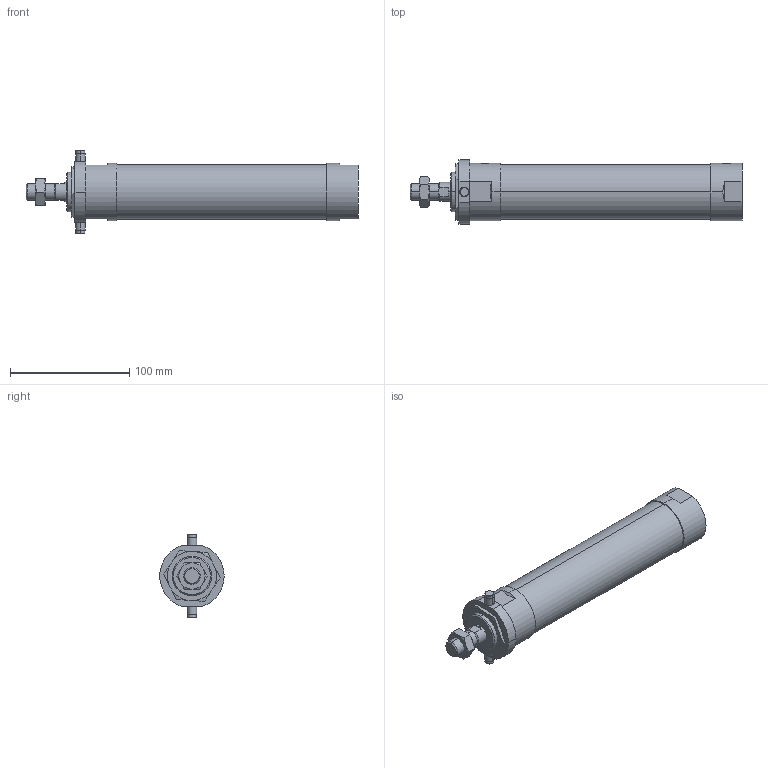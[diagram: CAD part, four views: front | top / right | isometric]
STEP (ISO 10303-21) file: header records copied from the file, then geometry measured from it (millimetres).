
FILE_DESCRIPTION (( 'STEP AP203' ), '1' );
FILE_NAME ('JGND2-40-125-T.STEP', '2016-08-04T03:12:15', ( '' ), ( '' ), 'SwSTEP 2.0', 'SolidWorks 2014', '' );
FILE_SCHEMA (( 'CONFIG_CONTROL_DESIGN' ));
Length unit declared in the file: millimetre
Products named in the file (5): J#2-40-125(P); J#2-40-T; JGND2-40-125-T
Assembly tree (4 placements, depth 2):
  JGND2-40-125-T
    J#2-40-125(P)
    (unnamed)
    (unnamed)
    J#2-40-T
Bounding box: 278 x 53.91 x 70 mm (x, y, z)
Volume: 419871.5 mm3; surface area: 50738.9 mm2
Topology: 4 solids, 4 shells, 116 faces, 269 edges, 165 vertices
Faces by surface type: plane 38, cylinder 33, torus 24, cone 21
Entity records: 4135 total; most frequent: CARTESIAN_POINT 1032, DIRECTION 550, ORIENTED_EDGE 530, EDGE_CURVE 265, AXIS2_PLACEMENT_3D 225, VERTEX_POINT 165, EDGE_LOOP 130, FACE_OUTER_BOUND 116
